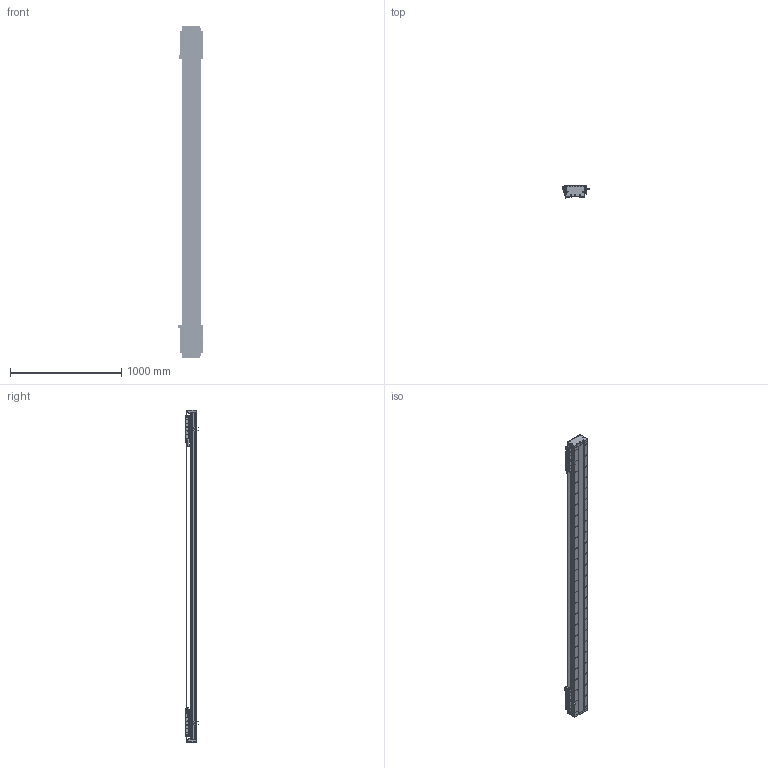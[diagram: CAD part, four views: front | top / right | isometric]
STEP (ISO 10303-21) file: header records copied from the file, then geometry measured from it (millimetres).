
FILE_DESCRIPTION (( 'STEP AP203' ), '1' );
FILE_NAME ('DA-C165-2-C3-T2360-C010-0.2 直线电机.STEP', '2023-06-13T09:17:36', ( '微软用户' ), ( '微软中国' ), 'SwSTEP 2.0', 'SolidWorks 2019', '' );
FILE_SCHEMA (( 'CONFIG_CONTROL_DESIGN' ));
Length unit declared in the file: millimetre
Products named in the file (22): 复件 CU165 底座^IU-CU165-L 底座导轨_L2940; 复件 DA95-HXJ-00 缓冲橡胶^DA-C165-C3-T-C010-0.2-N 直线电机; 复件 DA126-GYP-ZJ-00 中间光电感应片^DA-C165-C3-T-C010-0.2-N 直线电机; DA-C165-2-C3-T2360-C010-0.2 眻盄萇儂; 复件 DA165-GYP-00 光电感应片^DA-C165-C3-T-C010-0.2-N 直线电机; 复件 六角薄螺母 M3^DA-C165-C3-T-C010-0.2-N 直线电机_GB_FASTENER_NUT_STNAB M3-C; 复件 DKW-HXJ-JY-00 缓冲橡胶^DA-C165-C3-T-C010-0.2-N 直线电机; 复件 DA165-GDYK-00 钢带压块^复件 CU165钢带组件_DA-C165-C3-T-C010-0.2-N 直线电机; IU-CU165-L 菁釱絳寢; 葩璃 PM-Y45^DA-C165-C3-T-C010-0.2-N 眻盄萇儂; 葩璃 CKM01-W075-TRL^DA-C165-C3-T-C010-0.2-N 眻盄萇儂; 复件 DA165-GDLK-00 钢带拉块^复件 CU165钢带组件_DA-C165-C3-T-C010-0.2-N 直线电机; 复件 DA165-GD-DG-H-00 端盖^复件 CU165钢带组件_DA-C165-C3-T-C010-0.2-N 直线电机; 复件 XD-U-02L 磁栅尺^DA-C165-C3-T-C010-0.2-N 直线电机_T; 葩璃 PM-T45^DA-C165-C3-T-C010-0.2-N 眻盄萇儂; 珨极趙賑雄怢啣C3-wf; 复件 DA165-GD-1860-002-00 钢带盖板^复件 CU165钢带组件_DA-C165-C3-T-C010-0.2-N 直线电机; 复件 DMA-010-0.2 读数头^DA-C165-C3-T-C010-0.2-N 直线电机; 复件 66338-1000-006-00 光电感应块^DA-C165-C3-T-C010-0.2-N 直线电机; 葩璃 CKM03-W075-C1C2-TP-3.0^DA-C165-C3-T-C010-0.2-N 眻盄萇儂; 葩璃 DA95-GT-T-00^IU-CU165-L 菁釱絳寢_T; 复件 CU165钢带组件^DA-C165-C3-T-C010-0.2-N 直线电机
Assembly tree (45 placements, depth 3):
  DA-C165-2-C3-T2360-C010-0.2 眻盄萇儂
    IU-CU165-L 菁釱絳寢
      复件 CU165 底座^IU-CU165-L 底座导轨_L2940
      葩璃 DA95-GT-T-00^IU-CU165-L 菁釱絳寢_T  x4
    复件 XD-U-02L 磁栅尺^DA-C165-C3-T-C010-0.2-N 直线电机_T
    葩璃 PM-T45^DA-C165-C3-T-C010-0.2-N 眻盄萇儂  x4
    葩璃 CKM01-W075-TRL^DA-C165-C3-T-C010-0.2-N 眻盄萇儂
    复件 CU165钢带组件^DA-C165-C3-T-C010-0.2-N 直线电机
      复件 DA165-GD-DG-H-00 端盖^复件 CU165钢带组件_DA-C165-C3-T-C010-0.2-N 直线电机  x2
      复件 DA165-GDYK-00 钢带压块^复件 CU165钢带组件_DA-C165-C3-T-C010-0.2-N 直线电机  x2
      复件 DA165-GD-1860-002-00 钢带盖板^复件 CU165钢带组件_DA-C165-C3-T-C010-0.2-N 直线电机
      复件 DA165-GDLK-00 钢带拉块^复件 CU165钢带组件_DA-C165-C3-T-C010-0.2-N 直线电机  x2
    复件 DA95-HXJ-00 缓冲橡胶^DA-C165-C3-T-C010-0.2-N 直线电机  x4
    复件 DMA-010-0.2 读数头^DA-C165-C3-T-C010-0.2-N 直线电机  x2
    复件 DA165-GYP-00 光电感应片^DA-C165-C3-T-C010-0.2-N 直线电机  x2
    复件 66338-1000-006-00 光电感应块^DA-C165-C3-T-C010-0.2-N 直线电机
    葩璃 PM-Y45^DA-C165-C3-T-C010-0.2-N 眻盄萇儂
    复件 DA126-GYP-ZJ-00 中间光电感应片^DA-C165-C3-T-C010-0.2-N 直线电机
    葩璃 CKM03-W075-C1C2-TP-3.0^DA-C165-C3-T-C010-0.2-N 眻盄萇儂  x2
    复件 DKW-HXJ-JY-00 缓冲橡胶^DA-C165-C3-T-C010-0.2-N 直线电机  x2
    复件 六角薄螺母 M3^DA-C165-C3-T-C010-0.2-N 直线电机_GB_FASTENER_NUT_STNAB M3-C  x8
    珨极趙賑雄怢啣C3-wf  x2
Bounding box: 247.2 x 111.45 x 2980 mm (x, y, z)
Volume: 18948022.5 mm3; surface area: 5409407.3 mm2
Topology: 121 solids, 221 shells, 6745 faces, 18602 edges, 11610 vertices
Faces by surface type: cylinder 3646, plane 2031, cone 980, torus 80, sphere 8
Entity records: 157740 total; most frequent: CARTESIAN_POINT 42949, ORIENTED_EDGE 23788, DIRECTION 23076, EDGE_CURVE 11894, AXIS2_PLACEMENT_3D 8827, VERTEX_POINT 7764, EDGE_LOOP 5500, LINE 5422
